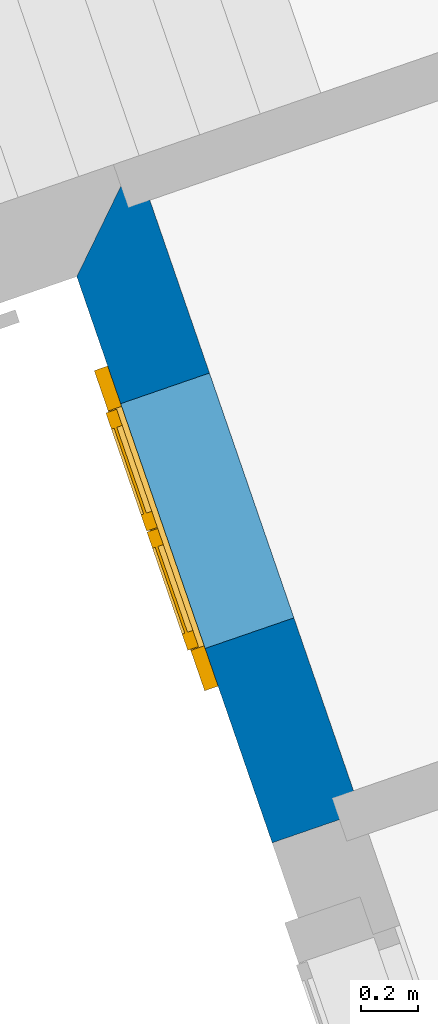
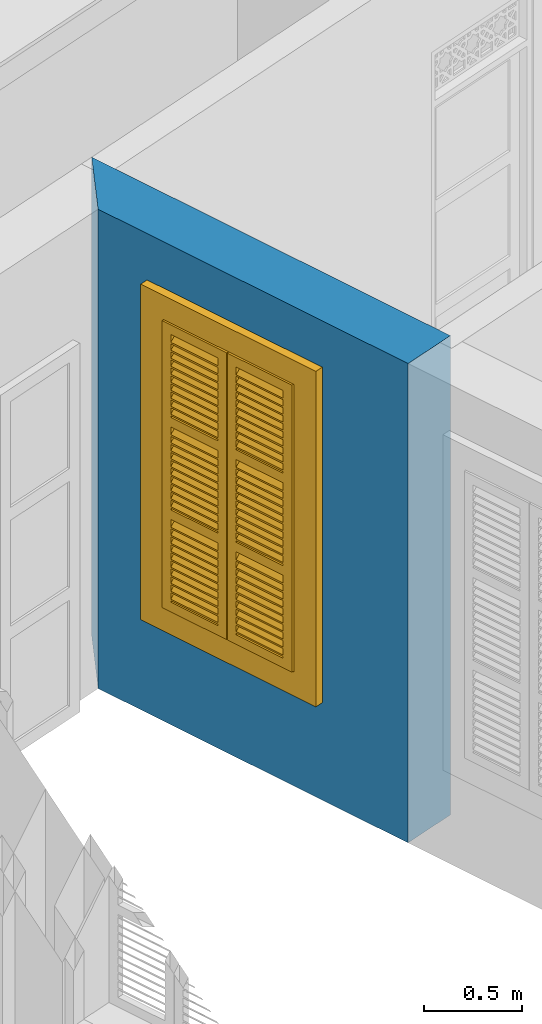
# One storey, part 13 of 16: 1 wall, 1 window, 1 opening.
"""IFC4 building model written with IfcOpenShell, lengths in metres."""

from ifc_helpers import new_model, si_unit, frame, origin, origin_with_axes, place, context, subcontext, project, spatial, polyline, outline, extrude, faceted_brep, source, transform, mapped, material, layer, layer_set, layer_usage, type_object, type_shapes, element, fill, save


model = new_model("IFC4")

# Units and contexts
model_context = context("Model", 3, world=origin_with_axes())
body_context = subcontext(model_context, "Body", "Model", "MODEL_VIEW")
ifc_project = project(units=[si_unit("PLANEANGLEUNIT", "RADIAN"), si_unit("MASSUNIT", "GRAM", prefix="KILO"), si_unit("FORCEUNIT", "NEWTON", prefix="KILO"), si_unit("LENGTHUNIT", "METRE"), si_unit("AREAUNIT", "SQUARE_METRE"), si_unit("VOLUMEUNIT", "CUBIC_METRE")], contexts=[model_context, model_context])

# Site, building, storey
site_placement = place(None, origin_with_axes())
site = spatial("IfcSite", under=ifc_project, at=site_placement, Name="Site plot-8", CompositionType="ELEMENT")
building_placement = place(None, origin_with_axes())
building = spatial("IfcBuilding", under=site, at=building_placement, Name="Building plot-8", CompositionType="ELEMENT")
storey_placement = place(None, origin_with_axes())
storey = spatial("IfcBuildingStorey", under=building, at=storey_placement, Name="plot-8 0", CompositionType="ELEMENT", Elevation=0.0)

# Wall, opening, window
ifc_material = material(Name="Masonry")
ifc_layer = layer(ifc_material, 0.33, ventilated=False)
ifc_layer_set = layer_set([ifc_layer], Name="exterior_0.08_0.25")
ifc_layer_usage = layer_usage(ifc_layer_set, "AXIS2", "POSITIVE", -0.25)
wall_type = type_object("IfcWallType", Name="exterior_0.08_0.25", PredefinedType="SOLIDWALL", material=ifc_layer_set)
wall_placement = place(storey_placement, frame((-8.36280491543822, 21.6813118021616, 0.0), z_axis=(0.0, 0.0, 1.0), x_axis=(0.326112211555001, -0.945331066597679, 0.0)))
wall = element("IfcWall", 1, at=wall_placement, inside=storey, type_object=wall_type, material=ifc_layer_usage, Name="exterior", context=body_context, shape_type="SweptSolid", body=[
    extrude(outline(polyline([(-0.0799999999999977, 0.0799999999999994), (0.249999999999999, -0.249999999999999), (2.35487631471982, -0.249999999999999), (2.35487631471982, 0.0799999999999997), (-0.0799999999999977, 0.0799999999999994)])), origin_with_axes(), (0.0, 0.0, 1.0), 3.0),
])
opening_placement = place(wall_placement, frame((0.722438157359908, 0.0, 0.75)))
opening = element("IfcOpeningElement", 2, at=opening_placement, cuts=wall, Name="My Opening", ObjectType="Opening", context=body_context, shape_type="SweptSolid", body=[
    extrude(outline(polyline([(0.0, -0.269999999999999), (0.910000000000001, -0.269999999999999), (0.910000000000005, 1.1), (3.5527136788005e-15, 1.1), (0.0, -0.269999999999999)])), origin_with_axes(), (0.0, 0.0, 1.0), 1.82),
])
window_type = type_object("IfcWindowType", Name="shuttered_big", PartitioningType="DOUBLE_PANEL_HORIZONTAL", PredefinedType="NOTDEFINED")
shared_shape = source(origin(), body_context, "Body", "Brep", [
    faceted_brep([(0.074, 0.0, 0.810667), (0.393, 0.0, 0.810667), (0.393, 0.0, 0.800667), (0.074, 0.0, 0.800667), (0.074, -0.04, 0.770667), (0.393, -0.04, 0.770667), (0.393, -0.04, 0.760667), (0.074, -0.04, 0.760667), (0.517, 0.0, 0.232), (0.836, 0.0, 0.232), (0.836, 0.0, 0.222), (0.517, 0.0, 0.222), (0.517, -0.04, 0.192), (0.836, -0.04, 0.192), (0.836, -0.04, 0.182), (0.517, -0.04, 0.182), (0.517, 0.0, 0.532), (0.836, 0.0, 0.532), (0.836, 0.0, 0.522), (0.517, 0.0, 0.522), (0.517, -0.04, 0.492), (0.836, -0.04, 0.492), (0.836, -0.04, 0.482), (0.517, -0.04, 0.482), (0.517, 0.0, 0.482), (0.836, 0.0, 0.482), (0.836, 0.0, 0.472), (0.517, 0.0, 0.472), (0.517, -0.04, 0.442), (0.836, -0.04, 0.442), (0.836, -0.04, 0.432), (0.517, -0.04, 0.432), (0.517, 0.0, 0.582), (0.836, 0.0, 0.582), (0.836, 0.0, 0.572), (0.517, 0.0, 0.572), (0.517, -0.04, 0.542), (0.836, -0.04, 0.542), (0.836, -0.04, 0.532), (0.517, -0.04, 0.532), (0.517, 0.0, 0.182), (0.836, 0.0, 0.182), (0.836, 0.0, 0.172), (0.517, 0.0, 0.172), (0.517, -0.04, 0.142), (0.836, -0.04, 0.142), (0.836, -0.04, 0.132), (0.517, -0.04, 0.132), (0.517, 0.0, 0.382), (0.836, 0.0, 0.382), (0.836, 0.0, 0.372), (0.517, 0.0, 0.372), (0.517, -0.04, 0.342), (0.836, -0.04, 0.342), (0.836, -0.04, 0.332), (0.517, -0.04, 0.332), (0.517, 0.0, 0.432), (0.836, 0.0, 0.432), (0.836, 0.0, 0.422), (0.517, 0.0, 0.422), (0.517, -0.04, 0.392), (0.836, -0.04, 0.392), (0.836, -0.04, 0.382), (0.517, -0.04, 0.382), (0.517, 0.0, 0.132), (0.836, 0.0, 0.132), (0.836, 0.0, 0.122), (0.517, 0.0, 0.122), (0.517, -0.04, 0.092), (0.836, -0.04, 0.092), (0.836, -0.04, 0.082), (0.517, -0.04, 0.082), (0.517, 0.0, 0.282), (0.836, 0.0, 0.282), (0.836, 0.0, 0.272), (0.517, 0.0, 0.272), (0.517, -0.04, 0.242), (0.836, -0.04, 0.242), (0.836, -0.04, 0.232), (0.517, -0.04, 0.232), (0.517, 0.0, 0.332), (0.836, 0.0, 0.332), (0.836, 0.0, 0.322), (0.517, 0.0, 0.322), (0.517, -0.04, 0.292), (0.836, -0.04, 0.292), (0.836, -0.04, 0.282), (0.517, -0.04, 0.282), (0.517, 0.0, 0.810667), (0.836, 0.0, 0.810667), (0.836, 0.0, 0.800667), (0.517, 0.0, 0.800667), (0.517, -0.04, 0.770667), (0.836, -0.04, 0.770667), (0.836, -0.04, 0.760667), (0.517, -0.04, 0.760667), (0.517, 0.0, 1.110667), (0.836, 0.0, 1.110667), (0.836, 0.0, 1.100667), (0.517, 0.0, 1.100667), (0.517, -0.04, 1.070667), (0.836, -0.04, 1.070667), (0.836, -0.04, 1.060667), (0.517, -0.04, 1.060667), (0.517, 0.0, 1.060667), (0.836, 0.0, 1.060667), (0.836, 0.0, 1.050667), (0.517, 0.0, 1.050667), (0.517, -0.04, 1.020667), (0.836, -0.04, 1.020667), (0.836, -0.04, 1.010667), (0.517, -0.04, 1.010667), (0.517, 0.0, 1.160667), (0.836, 0.0, 1.160667), (0.836, 0.0, 1.150667), (0.517, 0.0, 1.150667), (0.517, -0.04, 1.120667), (0.836, -0.04, 1.120667), (0.836, -0.04, 1.110667), (0.517, -0.04, 1.110667), (0.517, 0.0, 0.760667), (0.836, 0.0, 0.760667), (0.836, 0.0, 0.750667), (0.517, 0.0, 0.750667), (0.517, -0.04, 0.720667), (0.836, -0.04, 0.720667), (0.836, -0.04, 0.710667), (0.517, -0.04, 0.710667), (0.517, 0.0, 0.960667), (0.836, 0.0, 0.960667), (0.836, 0.0, 0.950667), (0.517, 0.0, 0.950667), (0.517, -0.04, 0.920667), (0.836, -0.04, 0.920667), (0.836, -0.04, 0.910667), (0.517, -0.04, 0.910667), (0.517, 0.0, 1.010667), (0.836, 0.0, 1.010667), (0.836, 0.0, 1.0), (0.517, 0.0, 1.0), (0.517, -0.04, 0.970667), (0.836, -0.04, 0.970667), (0.836, -0.04, 0.960667), (0.517, -0.04, 0.960667), (0.517, 0.0, 0.710667), (0.836, 0.0, 0.710667), (0.836, 0.0, 0.700667), (0.517, 0.0, 0.700667), (0.517, -0.04, 0.670667), (0.836, -0.04, 0.670667), (0.836, -0.04, 0.660667), (0.517, -0.04, 0.660667), (0.517, 0.0, 0.860667), (0.836, 0.0, 0.860667), (0.836, 0.0, 0.850667), (0.517, 0.0, 0.850667), (0.517, -0.04, 0.820667), (0.836, -0.04, 0.820667), (0.836, -0.04, 0.810667), (0.517, -0.04, 0.810667), (0.517, 0.0, 0.910667), (0.836, 0.0, 0.910667), (0.836, 0.0, 0.900667), (0.517, 0.0, 0.900667), (0.517, -0.04, 0.870667), (0.836, -0.04, 0.870667), (0.836, -0.04, 0.860667), (0.517, -0.04, 0.860667), (0.517, 0.0, 1.389333), (0.836, 0.0, 1.389333), (0.836, 0.0, 1.379333), (0.517, 0.0, 1.379333), (0.517, -0.04, 1.349333), (0.836, -0.04, 1.349333), (0.836, -0.04, 1.339333), (0.517, -0.04, 1.339333), (0.517, 0.0, 1.689333), (0.836, 0.0, 1.689333), (0.836, 0.0, 1.679333), (0.517, 0.0, 1.679333), (0.517, -0.04, 1.649333), (0.836, -0.04, 1.649333), (0.836, -0.04, 1.639333), (0.517, -0.04, 1.639333), (0.517, 0.0, 1.639333), (0.836, 0.0, 1.639333), (0.836, 0.0, 1.629333), (0.517, 0.0, 1.629333), (0.517, -0.04, 1.599333), (0.836, -0.04, 1.599333), (0.836, -0.04, 1.589333), (0.517, -0.04, 1.589333), (0.517, 0.0, 1.739333), (0.836, 0.0, 1.739333), (0.836, 0.0, 1.729333), (0.517, 0.0, 1.729333), (0.517, -0.04, 1.699333), (0.836, -0.04, 1.699333), (0.836, -0.04, 1.689333), (0.517, -0.04, 1.689333), (0.517, 0.0, 1.339333), (0.836, 0.0, 1.339333), (0.836, 0.0, 1.329333), (0.517, 0.0, 1.329333), (0.517, -0.04, 1.299333), (0.836, -0.04, 1.299333), (0.836, -0.04, 1.289333), (0.517, -0.04, 1.289333), (0.517, 0.0, 1.539333), (0.836, 0.0, 1.539333), (0.836, 0.0, 1.529333), (0.517, 0.0, 1.529333), (0.517, -0.04, 1.499333), (0.836, -0.04, 1.499333), (0.836, -0.04, 1.489333), (0.517, -0.04, 1.489333), (0.517, 0.0, 1.589333), (0.836, 0.0, 1.589333), (0.836, 0.0, 1.579333), (0.517, 0.0, 1.579333), (0.517, -0.04, 1.549333), (0.836, -0.04, 1.549333), (0.836, -0.04, 1.539333), (0.517, -0.04, 1.539333), (0.517, 0.0, 1.289333), (0.836, 0.0, 1.289333), (0.836, 0.0, 1.279333), (0.517, 0.0, 1.279333), (0.517, -0.04, 1.249333), (0.836, -0.04, 1.249333), (0.836, -0.04, 1.239333), (0.517, -0.04, 1.239333), (0.517, 0.0, 1.439333), (0.836, 0.0, 1.439333), (0.836, 0.0, 1.429333), (0.517, 0.0, 1.429333), (0.517, -0.04, 1.399333), (0.836, -0.04, 1.399333), (0.836, -0.04, 1.389333), (0.517, -0.04, 1.389333), (0.517, 0.0, 1.489333), (0.836, 0.0, 1.489333), (0.836, 0.0, 1.479333), (0.517, 0.0, 1.479333), (0.517, -0.04, 1.449333), (0.836, -0.04, 1.449333), (0.836, -0.04, 1.439333), (0.517, -0.04, 1.439333), (0.074, 0.0, 0.232), (0.393, 0.0, 0.232), (0.393, 0.0, 0.222), (0.074, 0.0, 0.222), (0.074, -0.04, 0.192), (0.393, -0.04, 0.192), (0.393, -0.04, 0.182), (0.074, -0.04, 0.182), (0.074, 0.0, 0.532), (0.393, 0.0, 0.532), (0.393, 0.0, 0.522), (0.074, 0.0, 0.522), (0.074, -0.04, 0.492), (0.393, -0.04, 0.492), (0.393, -0.04, 0.482), (0.074, -0.04, 0.482), (0.074, 0.0, 0.482), (0.393, 0.0, 0.482), (0.393, 0.0, 0.472), (0.074, 0.0, 0.472), (0.074, -0.04, 0.442), (0.393, -0.04, 0.442), (0.393, -0.04, 0.432), (0.074, -0.04, 0.432), (0.074, 0.0, 0.582), (0.393, 0.0, 0.582), (0.393, 0.0, 0.572), (0.074, 0.0, 0.572), (0.074, -0.04, 0.542), (0.393, -0.04, 0.542), (0.393, -0.04, 0.532), (0.074, -0.04, 0.532), (0.074, 0.0, 0.182), (0.393, 0.0, 0.182), (0.393, 0.0, 0.172), (0.074, 0.0, 0.172), (0.074, -0.04, 0.142), (0.393, -0.04, 0.142), (0.393, -0.04, 0.132), (0.074, -0.04, 0.132), (0.074, 0.0, 0.382), (0.393, 0.0, 0.382), (0.393, 0.0, 0.372), (0.074, 0.0, 0.372), (0.074, -0.04, 0.342), (0.393, -0.04, 0.342), (0.393, -0.04, 0.332), (0.074, -0.04, 0.332), (0.074, 0.0, 0.432), (0.393, 0.0, 0.432), (0.393, 0.0, 0.422), (0.074, 0.0, 0.422), (0.074, -0.04, 0.392), (0.393, -0.04, 0.392), (0.393, -0.04, 0.382), (0.074, -0.04, 0.382), (0.074, 0.0, 0.132), (0.393, 0.0, 0.132), (0.393, 0.0, 0.122), (0.074, 0.0, 0.122), (0.074, -0.04, 0.092), (0.393, -0.04, 0.092), (0.393, -0.04, 0.082), (0.074, -0.04, 0.082), (0.074, 0.0, 0.282), (0.393, 0.0, 0.282), (0.393, 0.0, 0.272), (0.074, 0.0, 0.272), (0.074, -0.04, 0.242), (0.393, -0.04, 0.242), (0.393, -0.04, 0.232), (0.074, -0.04, 0.232), (0.074, 0.0, 0.332), (0.393, 0.0, 0.332), (0.393, 0.0, 0.322), (0.074, 0.0, 0.322), (0.074, -0.04, 0.292), (0.393, -0.04, 0.292), (0.393, -0.04, 0.282), (0.074, -0.04, 0.282), (0.074, 0.0, 1.110667), (0.393, 0.0, 1.110667), (0.393, 0.0, 1.100667), (0.074, 0.0, 1.100667), (0.074, -0.04, 1.070667), (0.393, -0.04, 1.070667), (0.393, -0.04, 1.060667), (0.074, -0.04, 1.060667), (0.074, 0.0, 1.060667), (0.393, 0.0, 1.060667), (0.393, 0.0, 1.050667), (0.074, 0.0, 1.050667), (0.074, -0.04, 1.020667), (0.393, -0.04, 1.020667), (0.393, -0.04, 1.010667), (0.074, -0.04, 1.010667), (0.074, 0.0, 1.160667), (0.393, 0.0, 1.160667), (0.393, 0.0, 1.150667), (0.074, 0.0, 1.150667), (0.074, -0.04, 1.120667), (0.393, -0.04, 1.120667), (0.393, -0.04, 1.110667), (0.074, -0.04, 1.110667), (0.074, 0.0, 0.760667), (0.393, 0.0, 0.760667), (0.393, 0.0, 0.750667), (0.074, 0.0, 0.750667), (0.074, -0.04, 0.720667), (0.393, -0.04, 0.720667), (0.393, -0.04, 0.710667), (0.074, -0.04, 0.710667), (0.074, 0.0, 0.960667), (0.393, 0.0, 0.960667), (0.393, 0.0, 0.950667), (0.074, 0.0, 0.950667), (0.074, -0.04, 0.920667), (0.393, -0.04, 0.920667), (0.393, -0.04, 0.910667), (0.074, -0.04, 0.910667), (0.074, 0.0, 1.010667), (0.393, 0.0, 1.010667), (0.393, 0.0, 1.0), (0.074, 0.0, 1.0), (0.074, -0.04, 0.970667), (0.393, -0.04, 0.970667), (0.393, -0.04, 0.960667), (0.074, -0.04, 0.960667), (0.074, 0.0, 0.710667), (0.393, 0.0, 0.710667), (0.393, 0.0, 0.700667), (0.074, 0.0, 0.700667), (0.074, -0.04, 0.670667), (0.393, -0.04, 0.670667), (0.393, -0.04, 0.660667), (0.074, -0.04, 0.660667), (0.074, 0.0, 0.860667), (0.393, 0.0, 0.860667), (0.393, 0.0, 0.850667), (0.074, 0.0, 0.850667), (0.074, -0.04, 0.820667), (0.393, -0.04, 0.820667), (0.393, -0.04, 0.810667), (0.074, -0.04, 0.810667), (0.074, 0.0, 0.910667), (0.393, 0.0, 0.910667), (0.393, 0.0, 0.900667), (0.074, 0.0, 0.900667), (0.074, -0.04, 0.870667), (0.393, -0.04, 0.870667), (0.393, -0.04, 0.860667), (0.074, -0.04, 0.860667), (0.074, 0.0, 1.389333), (0.393, 0.0, 1.389333), (0.393, 0.0, 1.379333), (0.074, 0.0, 1.379333), (0.074, -0.04, 1.349333), (0.393, -0.04, 1.349333), (0.393, -0.04, 1.339333), (0.074, -0.04, 1.339333), (0.074, 0.0, 1.689333), (0.393, 0.0, 1.689333), (0.393, 0.0, 1.679333), (0.074, 0.0, 1.679333), (0.074, -0.04, 1.649333), (0.393, -0.04, 1.649333), (0.393, -0.04, 1.639333), (0.074, -0.04, 1.639333), (0.074, 0.0, 1.639333), (0.393, 0.0, 1.639333), (0.393, 0.0, 1.629333), (0.074, 0.0, 1.629333), (0.074, -0.04, 1.599333), (0.393, -0.04, 1.599333), (0.393, -0.04, 1.589333), (0.074, -0.04, 1.589333), (0.074, 0.0, 1.739333), (0.393, 0.0, 1.739333), (0.393, 0.0, 1.729333), (0.074, 0.0, 1.729333), (0.074, -0.04, 1.699333), (0.393, -0.04, 1.699333), (0.393, -0.04, 1.689333), (0.074, -0.04, 1.689333), (0.074, 0.0, 1.339333), (0.393, 0.0, 1.339333), (0.393, 0.0, 1.329333), (0.074, 0.0, 1.329333), (0.074, -0.04, 1.299333), (0.393, -0.04, 1.299333), (0.393, -0.04, 1.289333), (0.074, -0.04, 1.289333), (0.074, 0.0, 1.539333), (0.393, 0.0, 1.539333), (0.393, 0.0, 1.529333), (0.074, 0.0, 1.529333), (0.074, -0.04, 1.499333), (0.393, -0.04, 1.499333), (0.393, -0.04, 1.489333), (0.074, -0.04, 1.489333), (0.074, 0.0, 1.589333), (0.393, 0.0, 1.589333), (0.393, 0.0, 1.579333), (0.074, 0.0, 1.579333), (0.074, -0.04, 1.549333), (0.393, -0.04, 1.549333), (0.393, -0.04, 1.539333), (0.074, -0.04, 1.539333), (0.074, 0.0, 1.289333), (0.393, 0.0, 1.289333), (0.393, 0.0, 1.279333), (0.074, 0.0, 1.279333), (0.074, -0.04, 1.249333), (0.393, -0.04, 1.249333), (0.393, -0.04, 1.239333), (0.074, -0.04, 1.239333), (0.074, 0.0, 1.439333), (0.393, 0.0, 1.439333), (0.393, 0.0, 1.429333), (0.074, 0.0, 1.429333), (0.074, -0.04, 1.399333), (0.393, -0.04, 1.399333), (0.393, -0.04, 1.389333), (0.074, -0.04, 1.389333), (0.074, 0.0, 1.489333), (0.393, 0.0, 1.489333), (0.393, 0.0, 1.479333), (0.074, 0.0, 1.479333), (0.074, -0.04, 1.449333), (0.393, -0.04, 1.449333), (0.393, -0.04, 1.439333), (0.074, -0.04, 1.439333), (0.517, -0.04, 0.072), (0.457, -0.04, 0.012), (0.896, -0.04, 0.012), (0.836, -0.04, 0.072), (0.457, -0.04, 0.590667), (0.517, -0.04, 0.590667), (0.457, 0.0, 0.012), (0.896, 0.0, 0.012), (0.836, -0.04, 0.590667), (0.896, -0.04, 0.590667), (0.836, 0.0, 0.072), (0.517, 0.0, 0.072), (0.457, 0.0, 0.590667), (0.517, 0.0, 0.590667), (0.517, -0.04, 0.650667), (0.457, -0.04, 0.650667), (0.896, 0.0, 0.590667), (0.836, 0.0, 0.590667), (0.836, -0.04, 0.650667), (0.896, -0.04, 0.650667), (0.457, 0.0, 0.650667), (0.457, -0.04, 1.169333), (0.517, -0.04, 1.169333), (0.896, 0.0, 0.650667), (0.836, -0.04, 1.169333), (0.896, -0.04, 1.169333), (0.457, 0.0, 1.169333), (0.517, 0.0, 0.650667), (0.836, 0.0, 0.650667), (0.517, 0.0, 1.169333), (0.517, -0.04, 1.229333), (0.457, -0.04, 1.229333), (0.896, 0.0, 1.169333), (0.836, 0.0, 1.169333), (0.836, -0.04, 1.229333), (0.896, -0.04, 1.229333), (0.457, 0.0, 1.229333), (0.517, -0.04, 1.748), (0.457, -0.04, 1.808), (0.896, 0.0, 1.229333), (0.896, -0.04, 1.808), (0.836, -0.04, 1.748), (0.457, 0.0, 1.808), (0.517, 0.0, 1.229333), (0.836, 0.0, 1.229333), (0.517, 0.0, 1.748), (0.896, 0.0, 1.808), (0.836, 0.0, 1.748), (0.074, -0.04, 0.072), (0.014, -0.04, 0.012), (0.453, -0.04, 0.012), (0.393, -0.04, 0.072), (0.014, -0.04, 0.590667), (0.074, -0.04, 0.590667), (0.014, 0.0, 0.012), (0.453, 0.0, 0.012), (0.393, -0.04, 0.590667), (0.453, -0.04, 0.590667), (0.393, 0.0, 0.072), (0.074, 0.0, 0.072), (0.014, 0.0, 0.590667), (0.074, 0.0, 0.590667), (0.074, -0.04, 0.650667), (0.014, -0.04, 0.650667), (0.453, 0.0, 0.590667), (0.393, 0.0, 0.590667), (0.393, -0.04, 0.650667), (0.453, -0.04, 0.650667), (0.014, 0.0, 0.650667), (0.014, -0.04, 1.169333), (0.074, -0.04, 1.169333), (0.453, 0.0, 0.650667), (0.393, -0.04, 1.169333), (0.453, -0.04, 1.169333), (0.014, 0.0, 1.169333), (0.074, 0.0, 0.650667), (0.393, 0.0, 0.650667), (0.074, 0.0, 1.169333), (0.074, -0.04, 1.229333), (0.014, -0.04, 1.229333), (0.453, 0.0, 1.169333), (0.393, 0.0, 1.169333), (0.393, -0.04, 1.229333), (0.453, -0.04, 1.229333), (0.014, 0.0, 1.229333), (0.074, -0.04, 1.748), (0.014, -0.04, 1.808), (0.453, 0.0, 1.229333), (0.453, -0.04, 1.808), (0.393, -0.04, 1.748), (0.014, 0.0, 1.808), (0.074, 0.0, 1.229333), (0.393, 0.0, 1.229333), (0.074, 0.0, 1.748), (0.453, 0.0, 1.808), (0.393, 0.0, 1.748), (0.0, 0.33, 1.82), (0.91, 0.33, 1.82), (0.85, 0.33, 1.76), (0.06, 0.33, 1.76), (1.05, -0.03, 1.96), (1.05, 0.25, 1.96), (-0.14, 0.25, 1.96), (-0.14, -0.03, 1.96), (0.0, 0.25, 1.82), (0.91, 0.25, 1.82), (0.9, 0.25, 1.81), (0.01, 0.25, 1.81), (0.85, 0.33, 0.06), (0.91, 0.33, 0.0), (0.85, 0.25, 1.76), (0.06, 0.25, 1.76), (0.0, 0.33, 0.0), (0.06, 0.33, 0.06), (0.0, 0.25, 0.0), (0.910046, 0.25, 1.82), (0.91, 0.25, 0.0), (0.85, 0.25, 0.06), (0.06, 0.25, 0.06), (0.9, 0.25, 0.01), (0.9, -0.03, 0.01), (0.9, -0.03, 1.81), (0.01, -0.03, 0.01), (-0.14, -0.03, -0.14), (1.05, -0.03, -0.14), (0.01, -0.03, 1.81), (0.01, 0.25, 0.01), (1.05, 0.25, -0.14), (-0.14, 0.25, -0.14)], [[[0, 1, 2, 3]], [[1, 0, 4, 5]], [[2, 1, 5, 6]], [[6, 7, 3, 2]], [[7, 4, 0, 3]], [[5, 4, 7, 6]], [[8, 9, 10, 11]], [[12, 13, 9, 8]], [[13, 14, 10, 9]], [[14, 15, 11, 10]], [[15, 12, 8, 11]], [[13, 12, 15, 14]], [[16, 17, 18, 19]], [[20, 21, 17, 16]], [[21, 22, 18, 17]], [[22, 23, 19, 18]], [[23, 20, 16, 19]], [[21, 20, 23, 22]], [[24, 25, 26, 27]], [[28, 29, 25, 24]], [[29, 30, 26, 25]], [[30, 31, 27, 26]], [[31, 28, 24, 27]], [[29, 28, 31, 30]], [[32, 33, 34, 35]], [[36, 37, 33, 32]], [[37, 38, 34, 33]], [[38, 39, 35, 34]], [[39, 36, 32, 35]], [[37, 36, 39, 38]], [[40, 41, 42, 43]], [[44, 45, 41, 40]], [[45, 46, 42, 41]], [[46, 47, 43, 42]], [[47, 44, 40, 43]], [[45, 44, 47, 46]], [[48, 49, 50, 51]], [[52, 53, 49, 48]], [[53, 54, 50, 49]], [[54, 55, 51, 50]], [[55, 52, 48, 51]], [[53, 52, 55, 54]], [[56, 57, 58, 59]], [[60, 61, 57, 56]], [[61, 62, 58, 57]], [[62, 63, 59, 58]], [[63, 60, 56, 59]], [[61, 60, 63, 62]], [[64, 65, 66, 67]], [[68, 69, 65, 64]], [[69, 70, 66, 65]], [[70, 71, 67, 66]], [[71, 68, 64, 67]], [[69, 68, 71, 70]], [[72, 73, 74, 75]], [[76, 77, 73, 72]], [[77, 78, 74, 73]], [[78, 79, 75, 74]], [[79, 76, 72, 75]], [[77, 76, 79, 78]], [[80, 81, 82, 83]], [[84, 85, 81, 80]], [[85, 86, 82, 81]], [[86, 87, 83, 82]], [[87, 84, 80, 83]], [[85, 84, 87, 86]], [[88, 89, 90, 91]], [[92, 93, 89, 88]], [[93, 94, 90, 89]], [[94, 95, 91, 90]], [[95, 92, 88, 91]], [[93, 92, 95, 94]], [[96, 97, 98, 99]], [[100, 101, 97, 96]], [[101, 102, 98, 97]], [[102, 103, 99, 98]], [[103, 100, 96, 99]], [[101, 100, 103, 102]], [[104, 105, 106, 107]], [[108, 109, 105, 104]], [[109, 110, 106, 105]], [[110, 111, 107, 106]], [[111, 108, 104, 107]], [[109, 108, 111, 110]], [[112, 113, 114, 115]], [[116, 117, 113, 112]], [[117, 118, 114, 113]], [[118, 119, 115, 114]], [[119, 116, 112, 115]], [[117, 116, 119, 118]], [[120, 121, 122, 123]], [[124, 125, 121, 120]], [[125, 126, 122, 121]], [[126, 127, 123, 122]], [[127, 124, 120, 123]], [[125, 124, 127, 126]], [[128, 129, 130, 131]], [[132, 133, 129, 128]], [[133, 134, 130, 129]], [[134, 135, 131, 130]], [[135, 132, 128, 131]], [[133, 132, 135, 134]], [[136, 137, 138, 139]], [[140, 141, 137, 136]], [[141, 142, 138, 137]], [[142, 143, 139, 138]], [[143, 140, 136, 139]], [[141, 140, 143, 142]], [[144, 145, 146, 147]], [[148, 149, 145, 144]], [[149, 150, 146, 145]], [[150, 151, 147, 146]], [[151, 148, 144, 147]], [[149, 148, 151, 150]], [[152, 153, 154, 155]], [[156, 157, 153, 152]], [[157, 158, 154, 153]], [[158, 159, 155, 154]], [[159, 156, 152, 155]], [[157, 156, 159, 158]], [[160, 161, 162, 163]], [[164, 165, 161, 160]], [[165, 166, 162, 161]], [[166, 167, 163, 162]], [[167, 164, 160, 163]], [[165, 164, 167, 166]], [[168, 169, 170, 171]], [[172, 173, 169, 168]], [[173, 174, 170, 169]], [[174, 175, 171, 170]], [[175, 172, 168, 171]], [[173, 172, 175, 174]], [[176, 177, 178, 179]], [[180, 181, 177, 176]], [[181, 182, 178, 177]], [[182, 183, 179, 178]], [[183, 180, 176, 179]], [[181, 180, 183, 182]], [[184, 185, 186, 187]], [[188, 189, 185, 184]], [[189, 190, 186, 185]], [[190, 191, 187, 186]], [[191, 188, 184, 187]], [[189, 188, 191, 190]], [[192, 193, 194, 195]], [[196, 197, 193, 192]], [[197, 198, 194, 193]], [[198, 199, 195, 194]], [[199, 196, 192, 195]], [[197, 196, 199, 198]], [[200, 201, 202, 203]], [[204, 205, 201, 200]], [[205, 206, 202, 201]], [[206, 207, 203, 202]], [[207, 204, 200, 203]], [[205, 204, 207, 206]], [[208, 209, 210, 211]], [[212, 213, 209, 208]], [[213, 214, 210, 209]], [[214, 215, 211, 210]], [[215, 212, 208, 211]], [[213, 212, 215, 214]], [[216, 217, 218, 219]], [[220, 221, 217, 216]], [[221, 222, 218, 217]], [[222, 223, 219, 218]], [[223, 220, 216, 219]], [[221, 220, 223, 222]], [[224, 225, 226, 227]], [[228, 229, 225, 224]], [[229, 230, 226, 225]], [[230, 231, 227, 226]], [[231, 228, 224, 227]], [[229, 228, 231, 230]], [[232, 233, 234, 235]], [[236, 237, 233, 232]], [[237, 238, 234, 233]], [[238, 239, 235, 234]], [[239, 236, 232, 235]], [[237, 236, 239, 238]], [[240, 241, 242, 243]], [[244, 245, 241, 240]], [[245, 246, 242, 241]], [[246, 247, 243, 242]], [[247, 244, 240, 243]], [[245, 244, 247, 246]], [[248, 249, 250, 251]], [[252, 253, 249, 248]], [[253, 254, 250, 249]], [[254, 255, 251, 250]], [[255, 252, 248, 251]], [[253, 252, 255, 254]], [[256, 257, 258, 259]], [[260, 261, 257, 256]], [[261, 262, 258, 257]], [[262, 263, 259, 258]], [[263, 260, 256, 259]], [[261, 260, 263, 262]], [[264, 265, 266, 267]], [[268, 269, 265, 264]], [[269, 270, 266, 265]], [[270, 271, 267, 266]], [[271, 268, 264, 267]], [[269, 268, 271, 270]], [[272, 273, 274, 275]], [[276, 277, 273, 272]], [[277, 278, 274, 273]], [[278, 279, 275, 274]], [[279, 276, 272, 275]], [[277, 276, 279, 278]], [[280, 281, 282, 283]], [[284, 285, 281, 280]], [[285, 286, 282, 281]], [[286, 287, 283, 282]], [[287, 284, 280, 283]], [[285, 284, 287, 286]], [[288, 289, 290, 291]], [[292, 293, 289, 288]], [[293, 294, 290, 289]], [[294, 295, 291, 290]], [[295, 292, 288, 291]], [[293, 292, 295, 294]], [[296, 297, 298, 299]], [[300, 301, 297, 296]], [[301, 302, 298, 297]], [[302, 303, 299, 298]], [[303, 300, 296, 299]], [[301, 300, 303, 302]], [[304, 305, 306, 307]], [[308, 309, 305, 304]], [[309, 310, 306, 305]], [[310, 311, 307, 306]], [[311, 308, 304, 307]], [[309, 308, 311, 310]], [[312, 313, 314, 315]], [[316, 317, 313, 312]], [[317, 318, 314, 313]], [[318, 319, 315, 314]], [[319, 316, 312, 315]], [[317, 316, 319, 318]], [[320, 321, 322, 323]], [[324, 325, 321, 320]], [[325, 326, 322, 321]], [[326, 327, 323, 322]], [[327, 324, 320, 323]], [[325, 324, 327, 326]], [[328, 329, 330, 331]], [[332, 333, 329, 328]], [[333, 334, 330, 329]], [[334, 335, 331, 330]], [[335, 332, 328, 331]], [[333, 332, 335, 334]], [[336, 337, 338, 339]], [[340, 341, 337, 336]], [[341, 342, 338, 337]], [[342, 343, 339, 338]], [[343, 340, 336, 339]], [[341, 340, 343, 342]], [[344, 345, 346, 347]], [[348, 349, 345, 344]], [[349, 350, 346, 345]], [[350, 351, 347, 346]], [[351, 348, 344, 347]], [[349, 348, 351, 350]], [[352, 353, 354, 355]], [[356, 357, 353, 352]], [[357, 358, 354, 353]], [[358, 359, 355, 354]], [[359, 356, 352, 355]], [[357, 356, 359, 358]], [[360, 361, 362, 363]], [[364, 365, 361, 360]], [[365, 366, 362, 361]], [[366, 367, 363, 362]], [[367, 364, 360, 363]], [[366, 365, 364, 367]], [[368, 369, 370, 371]], [[372, 373, 369, 368]], [[373, 374, 370, 369]], [[374, 375, 371, 370]], [[375, 372, 368, 371]], [[373, 372, 375, 374]], [[376, 377, 378, 379]], [[380, 381, 377, 376]], [[381, 382, 378, 377]], [[382, 383, 379, 378]], [[383, 380, 376, 379]], [[381, 380, 383, 382]], [[384, 385, 386, 387]], [[388, 389, 385, 384]], [[389, 390, 386, 385]], [[390, 391, 387, 386]], [[391, 388, 384, 387]], [[389, 388, 391, 390]], [[392, 393, 394, 395]], [[396, 397, 393, 392]], [[397, 398, 394, 393]], [[398, 399, 395, 394]], [[399, 396, 392, 395]], [[397, 396, 399, 398]], [[400, 401, 402, 403]], [[404, 405, 401, 400]], [[405, 406, 402, 401]], [[406, 407, 403, 402]], [[407, 404, 400, 403]], [[405, 404, 407, 406]], [[408, 409, 410, 411]], [[412, 413, 409, 408]], [[413, 414, 410, 409]], [[414, 415, 411, 410]], [[415, 412, 408, 411]], [[414, 413, 412, 415]], [[416, 417, 418, 419]], [[420, 421, 417, 416]], [[421, 422, 418, 417]], [[422, 423, 419, 418]], [[423, 420, 416, 419]], [[421, 420, 423, 422]], [[424, 425, 426, 427]], [[428, 429, 425, 424]], [[429, 430, 426, 425]], [[430, 431, 427, 426]], [[431, 428, 424, 427]], [[429, 428, 431, 430]], [[432, 433, 434, 435]], [[436, 437, 433, 432]], [[437, 438, 434, 433]], [[438, 439, 435, 434]], [[439, 436, 432, 435]], [[437, 436, 439, 438]], [[440, 441, 442, 443]], [[444, 445, 441, 440]], [[445, 446, 442, 441]], [[446, 447, 443, 442]], [[447, 444, 440, 443]], [[445, 444, 447, 446]], [[448, 449, 450, 451]], [[452, 453, 449, 448]], [[453, 454, 450, 449]], [[454, 455, 451, 450]], [[455, 452, 448, 451]], [[453, 452, 455, 454]], [[456, 457, 458, 459]], [[460, 461, 457, 456]], [[461, 462, 458, 457]], [[462, 463, 459, 458]], [[463, 460, 456, 459]], [[461, 460, 463, 462]], [[464, 465, 466, 467]], [[468, 469, 465, 464]], [[469, 470, 466, 465]], [[470, 471, 467, 466]], [[471, 468, 464, 467]], [[469, 468, 471, 470]], [[472, 473, 474, 475]], [[476, 477, 473, 472]], [[477, 478, 474, 473]], [[478, 479, 475, 474]], [[479, 476, 472, 475]], [[477, 476, 479, 478]], [[480, 481, 482, 483]], [[484, 481, 480, 485]], [[486, 487, 482, 481]], [[488, 483, 482, 489]], [[480, 483, 490, 491]], [[486, 481, 484, 492]], [[485, 480, 491, 493]], [[485, 494, 495, 484]], [[486, 491, 490, 487]], [[496, 489, 482, 487]], [[483, 488, 497, 490]], [[498, 488, 489, 499]], [[492, 484, 495, 500]], [[486, 492, 493, 491]], [[488, 485, 493, 497]], [[494, 485, 488, 498]], [[501, 495, 494, 502]], [[490, 497, 496, 487]], [[503, 499, 489, 496]], [[504, 498, 499, 505]], [[500, 495, 501, 506]], [[507, 493, 492, 500]], [[493, 507, 508, 497]], [[494, 498, 508, 507]], [[502, 494, 507, 509]], [[502, 510, 511, 501]], [[497, 508, 503, 496]], [[512, 505, 499, 503]], [[498, 504, 513, 508]], [[514, 504, 505, 515]], [[506, 501, 511, 516]], [[500, 506, 509, 507]], [[504, 502, 509, 513]], [[510, 502, 504, 514]], [[510, 517, 518, 511]], [[508, 513, 512, 503]], [[519, 515, 505, 512]], [[515, 520, 521, 514]], [[516, 511, 518, 522]], [[523, 509, 506, 516]], [[509, 523, 524, 513]], [[510, 514, 524, 523]], [[517, 510, 523, 525]], [[518, 517, 521, 520]], [[513, 524, 519, 512]], [[526, 520, 515, 519]], [[514, 521, 527, 524]], [[522, 518, 520, 526]], [[525, 523, 516, 522]], [[521, 517, 525, 527]], [[526, 519, 524, 527]], [[525, 522, 526, 527]], [[528, 529, 530, 531]], [[532, 529, 528, 533]], [[534, 535, 530, 529]], [[536, 531, 530, 537]], [[528, 531, 538, 539]], [[534, 529, 532, 540]], [[533, 528, 539, 541]], [[533, 542, 543, 532]], [[534, 539, 538, 535]], [[544, 537, 530, 535]], [[531, 536, 545, 538]], [[546, 536, 537, 547]], [[540, 532, 543, 548]], [[534, 540, 541, 539]], [[536, 533, 541, 545]], [[542, 533, 536, 546]], [[549, 543, 542, 550]], [[538, 545, 544, 535]], [[551, 547, 537, 544]], [[552, 546, 547, 553]], [[548, 543, 549, 554]], [[555, 541, 540, 548]], [[541, 555, 556, 545]], [[542, 546, 556, 555]], [[550, 542, 555, 557]], [[550, 558, 559, 549]], [[545, 556, 551, 544]], [[560, 553, 547, 551]], [[546, 552, 561, 556]], [[562, 552, 553, 563]], [[554, 549, 559, 564]], [[548, 554, 557, 555]], [[552, 550, 557, 561]], [[558, 550, 552, 562]], [[558, 565, 566, 559]], [[556, 561, 560, 551]], [[567, 563, 553, 560]], [[563, 568, 569, 562]], [[564, 559, 566, 570]], [[571, 557, 554, 564]], [[557, 571, 572, 561]], [[558, 562, 572, 571]], [[565, 558, 571, 573]], [[566, 565, 569, 568]], [[561, 572, 567, 560]], [[574, 568, 563, 567]], [[562, 569, 575, 572]], [[570, 566, 568, 574]], [[573, 571, 564, 570]], [[569, 565, 573, 575]], [[574, 567, 572, 575]], [[573, 570, 574, 575]], [[576, 577, 578, 579]], [[580, 581, 582, 583]], [[576, 584, 585, 577]], [[582, 581, 586, 587]], [[588, 578, 577, 589]], [[579, 578, 590, 591]], [[592, 576, 579, 593]], [[576, 592, 594, 584]], [[595, 584, 591, 590]], [[596, 585, 595]], [[595, 590, 597]], [[595, 597, 596]], [[589, 577, 585, 596]], [[578, 588, 597, 590]], [[589, 592, 593, 588]], [[593, 579, 591, 598]], [[592, 589, 596, 594]], [[598, 591, 584, 594]], [[594, 596, 597, 598]], [[588, 593, 598, 597]], [[599, 600, 601, 586]], [[602, 603, 604, 600]], [[601, 605, 587, 586]], [[600, 599, 606, 602]], [[607, 604, 603, 608]], [[599, 607, 608, 606]], [[605, 602, 606, 587]], [[602, 605, 583, 603]], [[600, 604, 580, 601]], [[580, 583, 605, 601]], [[606, 608, 582, 587]], [[599, 586, 581, 607]], [[582, 608, 603, 583]], [[580, 604, 607, 581]]]),
])
type_shapes(window_type, [shared_shape])
window_placement = place(storey_placement, frame((-8.38244839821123, 20.9103182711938, 0.75), z_axis=(0.0, 0.0, 1.0), x_axis=(0.296762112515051, -0.860251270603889, 0.0)))
window = element("IfcWindow", 3, at=window_placement, inside=storey, type_object=window_type, Name="bedroom sahn window", OverallHeight=1.82, OverallWidth=0.91, context=body_context, shape_type="MappedRepresentation", body=[
    mapped(shared_shape, transform((0.0, 0.0, 0.0), scale=1.0)),
])
fill(opening, window)

save(model, "model.ifc")
